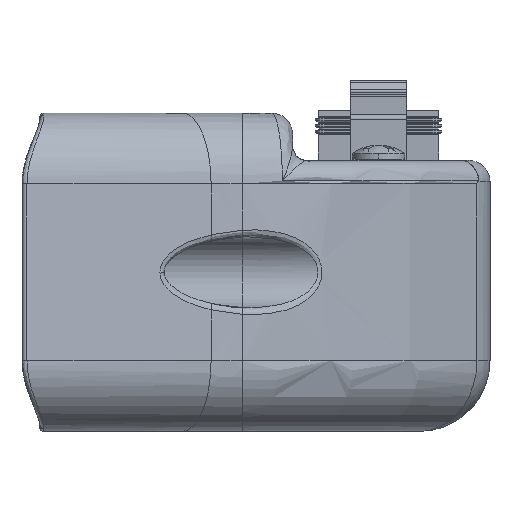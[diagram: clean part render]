
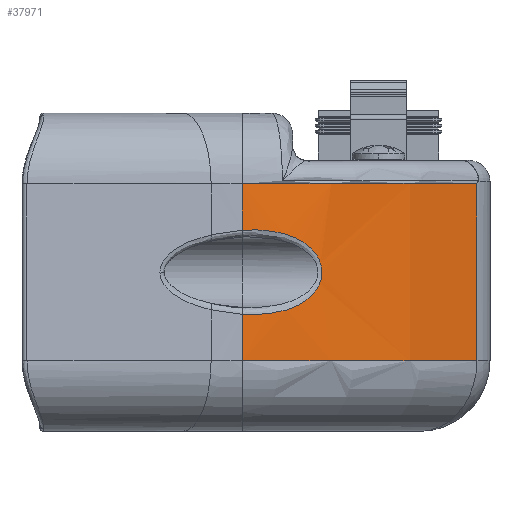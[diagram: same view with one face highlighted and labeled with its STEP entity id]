
A CAD part, left-side view. The second image highlights one B-rep face of the part: STEP entity #37971.
In plain terms, the highlighted cylindrical face has radius 91.586 mm (diameter 183.171 mm), a partial arc.
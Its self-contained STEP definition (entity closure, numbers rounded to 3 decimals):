
#242 = CARTESIAN_POINT ( 'NONE',  ( -52.923, -33.161, -15.8 ) ) ;
#1497 = ORIENTED_EDGE ( 'NONE', *, *, #36663, .F. ) ;
#1677 = CARTESIAN_POINT ( 'NONE',  ( -77.105, -7.841, -33.014 ) ) ;
#1961 = CARTESIAN_POINT ( 'NONE',  ( -75.722, -9.933, -25.137 ) ) ;
#2243 = CARTESIAN_POINT ( 'NONE',  ( -79.418, -4.034, -22.469 ) ) ;
#2534 = CARTESIAN_POINT ( 'NONE',  ( -74.824, -11.228, -27.963 ) ) ;
#3993 = CIRCLE ( 'NONE', #16846, 91.586 ) ;
#6882 = VERTEX_POINT ( 'NONE', #53326 ) ;
#7311 = CARTESIAN_POINT ( 'NONE',  ( -80.374, -2.328, -34.287 ) ) ;
#8277 = CARTESIAN_POINT ( 'NONE',  ( 0., 41.586, -40.8 ) ) ;
#8873 = DIRECTION ( 'NONE',  ( 0., 0., 1. ) ) ;
#9651 = VECTOR ( 'NONE', #40521, 1000. ) ;
#9944 = CARTESIAN_POINT ( 'NONE',  ( -75.035, -10.928, -29.901 ) ) ;
#12083 = ORIENTED_EDGE ( 'NONE', *, *, #87966, .F. ) ;
#12218 = EDGE_CURVE ( 'NONE', #85653, #85664, #3993, .T. ) ;
#14171 = CARTESIAN_POINT ( 'NONE',  ( -76.627, -8.577, -32.581 ) ) ;
#15896 = CARTESIAN_POINT ( 'NONE',  ( -75.585, -10.134, -31.235 ) ) ;
#16176 = AXIS2_PLACEMENT_3D ( 'NONE', #42545, #70786, #71931 ) ;
#16477 = CARTESIAN_POINT ( 'NONE',  ( -75.222, -10.661, -26.124 ) ) ;
#16655 = B_SPLINE_CURVE_WITH_KNOTS ( 'NONE', 3,
 ( #28655, #22139, #69617, #7311, #54787, #82369, #82964, #28937, #48543, #42262, #1677, #14171, #49147, #61598, #63921, #36078, #15896, #70478, #36662, #22415, #9944, #76705, #77282, #23296, #84089, #84376, #42538, #63629, #2534, #35798, #36373, #30409, #63046, #16477, #63339, #43126, #1961, #70778, #16761, #57377, #49408, #23011, #57082, #64207, #2243, #70184, #22707, #43724 ),
 .UNSPECIFIED., .F., .F.,
 ( 4, 2, 2, 2, 2, 2, 2, 2, 2, 2, 2, 2, 2, 2, 2, 2, 2, 2, 2, 2, 2, 2, 2, 4 ),
 ( 0., 0.002, 0.004, 0.006, 0.008, 0.01, 0.011, 0.012, 0.013, 0.014, 0.014, 0.015, 0.015, 0.016, 0.016, 0.017, 0.018, 0.019, 0.02, 0.022, 0.024, 0.026, 0.028, 0.032 ),
 .UNSPECIFIED. ) ;
#16761 = CARTESIAN_POINT ( 'NONE',  ( -76.462, -8.831, -24.169 ) ) ;
#16846 = AXIS2_PLACEMENT_3D ( 'NONE', #40405, #74819, #54629 ) ;
#17878 = VERTEX_POINT ( 'NONE', #18120 ) ;
#18120 = CARTESIAN_POINT ( 'NONE',  ( -52.923, -33.161, -40.8 ) ) ;
#19840 = CIRCLE ( 'NONE', #30220, 91.586 ) ;
#21112 = EDGE_CURVE ( 'NONE', #22669, #85653, #31933, .T. ) ;
#22139 = CARTESIAN_POINT ( 'NONE',  ( -81.301, -0.586, -34.293 ) ) ;
#22415 = CARTESIAN_POINT ( 'NONE',  ( -75.078, -10.866, -30.048 ) ) ;
#22669 = VERTEX_POINT ( 'NONE', #87342 ) ;
#22707 = CARTESIAN_POINT ( 'NONE',  ( -81.002, -1.173, -22.272 ) ) ;
#23011 = CARTESIAN_POINT ( 'NONE',  ( -78.098, -6.258, -22.956 ) ) ;
#23296 = CARTESIAN_POINT ( 'NONE',  ( -74.872, -11.16, -29.122 ) ) ;
#25752 = CARTESIAN_POINT ( 'NONE',  ( -81.6, 0., -34.258 ) ) ;
#28655 = CARTESIAN_POINT ( 'NONE',  ( -81.6, 0., -34.258 ) ) ;
#28937 = CARTESIAN_POINT ( 'NONE',  ( -78.425, -5.721, -33.796 ) ) ;
#30220 = AXIS2_PLACEMENT_3D ( 'NONE', #8277, #56022, #75649 ) ;
#30409 = CARTESIAN_POINT ( 'NONE',  ( -74.952, -11.047, -27.002 ) ) ;
#31933 = LINE ( 'NONE', #37746, #74422 ) ;
#35120 = VECTOR ( 'NONE', #8873, 1000. ) ;
#35798 = CARTESIAN_POINT ( 'NONE',  ( -74.852, -11.188, -27.635 ) ) ;
#36078 = CARTESIAN_POINT ( 'NONE',  ( -75.721, -9.935, -31.461 ) ) ;
#36373 = CARTESIAN_POINT ( 'NONE',  ( -74.873, -11.159, -27.474 ) ) ;
#36662 = CARTESIAN_POINT ( 'NONE',  ( -75.221, -10.662, -30.474 ) ) ;
#36663 = EDGE_CURVE ( 'NONE', #17878, #6882, #19840, .T. ) ;
#37746 = CARTESIAN_POINT ( 'NONE',  ( -81.6, 0., -50.8 ) ) ;
#37971 = ADVANCED_FACE ( 'NONE', ( #73614 ), #61893, .T. ) ;
#40405 = CARTESIAN_POINT ( 'NONE',  ( 0., 41.586, -15.8 ) ) ;
#40521 = DIRECTION ( 'NONE',  ( 0., 0., -1. ) ) ;
#41207 = EDGE_CURVE ( 'NONE', #43316, #22669, #16655, .T. ) ;
#42262 = CARTESIAN_POINT ( 'NONE',  ( -77.432, -7.329, -33.249 ) ) ;
#42538 = CARTESIAN_POINT ( 'NONE',  ( -74.817, -11.238, -28.465 ) ) ;
#42545 = CARTESIAN_POINT ( 'NONE',  ( 0., 41.586, 105.414 ) ) ;
#43126 = CARTESIAN_POINT ( 'NONE',  ( -75.584, -10.135, -25.366 ) ) ;
#43316 = VERTEX_POINT ( 'NONE', #25752 ) ;
#43724 = CARTESIAN_POINT ( 'NONE',  ( -81.6, 0., -22.342 ) ) ;
#44845 = DIRECTION ( 'NONE',  ( 0., 0., 1. ) ) ;
#47207 = ORIENTED_EDGE ( 'NONE', *, *, #72258, .F. ) ;
#47770 = ORIENTED_EDGE ( 'NONE', *, *, #41207, .F. ) ;
#48543 = CARTESIAN_POINT ( 'NONE',  ( -78.09, -6.27, -33.64 ) ) ;
#49147 = CARTESIAN_POINT ( 'NONE',  ( -76.469, -8.817, -32.423 ) ) ;
#49408 = CARTESIAN_POINT ( 'NONE',  ( -77.438, -7.319, -23.347 ) ) ;
#53111 = LINE ( 'NONE', #74343, #9651 ) ;
#53326 = CARTESIAN_POINT ( 'NONE',  ( -81.6, 0., -40.8 ) ) ;
#54524 = ORIENTED_EDGE ( 'NONE', *, *, #21112, .F. ) ;
#54629 = DIRECTION ( 'NONE',  ( -1., 0., 0. ) ) ;
#54787 = CARTESIAN_POINT ( 'NONE',  ( -80.056, -2.906, -34.253 ) ) ;
#56022 = DIRECTION ( 'NONE',  ( 0., 0., -1. ) ) ;
#57082 = CARTESIAN_POINT ( 'NONE',  ( -78.429, -5.714, -22.802 ) ) ;
#57377 = CARTESIAN_POINT ( 'NONE',  ( -77.11, -7.835, -23.582 ) ) ;
#59706 = ORIENTED_EDGE ( 'NONE', *, *, #12218, .F. ) ;
#61598 = CARTESIAN_POINT ( 'NONE',  ( -76.16, -9.284, -32.072 ) ) ;
#61893 = CYLINDRICAL_SURFACE ( 'NONE', #16176, 91.586 ) ;
#63046 = CARTESIAN_POINT ( 'NONE',  ( -75.029, -10.937, -26.698 ) ) ;
#63339 = CARTESIAN_POINT ( 'NONE',  ( -75.334, -10.498, -25.86 ) ) ;
#63629 = CARTESIAN_POINT ( 'NONE',  ( -74.817, -11.238, -28.131 ) ) ;
#63921 = CARTESIAN_POINT ( 'NONE',  ( -76.008, -9.51, -31.88 ) ) ;
#64207 = CARTESIAN_POINT ( 'NONE',  ( -79.09, -4.6, -22.558 ) ) ;
#69617 = CARTESIAN_POINT ( 'NONE',  ( -80.996, -1.169, -34.307 ) ) ;
#70170 = LINE ( 'NONE', #83630, #35120 ) ;
#70184 = CARTESIAN_POINT ( 'NONE',  ( -80.382, -2.328, -22.286 ) ) ;
#70478 = CARTESIAN_POINT ( 'NONE',  ( -75.333, -10.5, -30.738 ) ) ;
#70778 = CARTESIAN_POINT ( 'NONE',  ( -76.151, -9.299, -24.513 ) ) ;
#70786 = DIRECTION ( 'NONE',  ( 0., 0., -1. ) ) ;
#71931 = DIRECTION ( 'NONE',  ( 1., 0., 0. ) ) ;
#72258 = EDGE_CURVE ( 'NONE', #85664, #17878, #53111, .T. ) ;
#73614 = FACE_OUTER_BOUND ( 'NONE', #78018, .T. ) ;
#74343 = CARTESIAN_POINT ( 'NONE',  ( -52.923, -33.161, 105.414 ) ) ;
#74422 = VECTOR ( 'NONE', #44845, 1000. ) ;
#74819 = DIRECTION ( 'NONE',  ( 0., 0., 1. ) ) ;
#75649 = DIRECTION ( 'NONE',  ( 1., 0., 0. ) ) ;
#76705 = CARTESIAN_POINT ( 'NONE',  ( -74.958, -11.038, -29.597 ) ) ;
#77282 = CARTESIAN_POINT ( 'NONE',  ( -74.925, -11.085, -29.439 ) ) ;
#78018 = EDGE_LOOP ( 'NONE', ( #12083, #1497, #47207, #59706, #54524, #47770 ) ) ;
#80291 = CARTESIAN_POINT ( 'NONE',  ( -81.6, 0., -15.8 ) ) ;
#82369 = CARTESIAN_POINT ( 'NONE',  ( -79.411, -4.046, -34.13 ) ) ;
#82964 = CARTESIAN_POINT ( 'NONE',  ( -79.084, -4.61, -34.041 ) ) ;
#83630 = CARTESIAN_POINT ( 'NONE',  ( -81.6, 0., -50.8 ) ) ;
#84089 = CARTESIAN_POINT ( 'NONE',  ( -74.851, -11.189, -28.96 ) ) ;
#84376 = CARTESIAN_POINT ( 'NONE',  ( -74.824, -11.228, -28.633 ) ) ;
#85653 = VERTEX_POINT ( 'NONE', #80291 ) ;
#85664 = VERTEX_POINT ( 'NONE', #242 ) ;
#87342 = CARTESIAN_POINT ( 'NONE',  ( -81.6, 0., -22.342 ) ) ;
#87966 = EDGE_CURVE ( 'NONE', #6882, #43316, #70170, .T. ) ;
